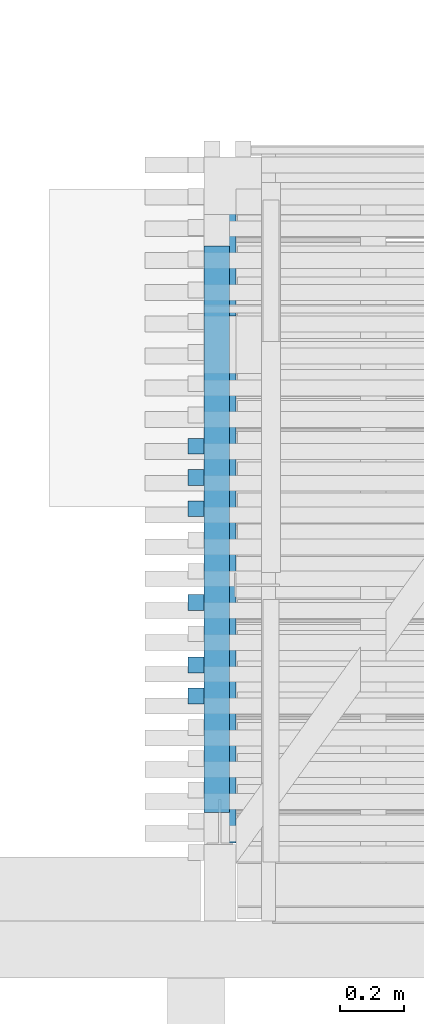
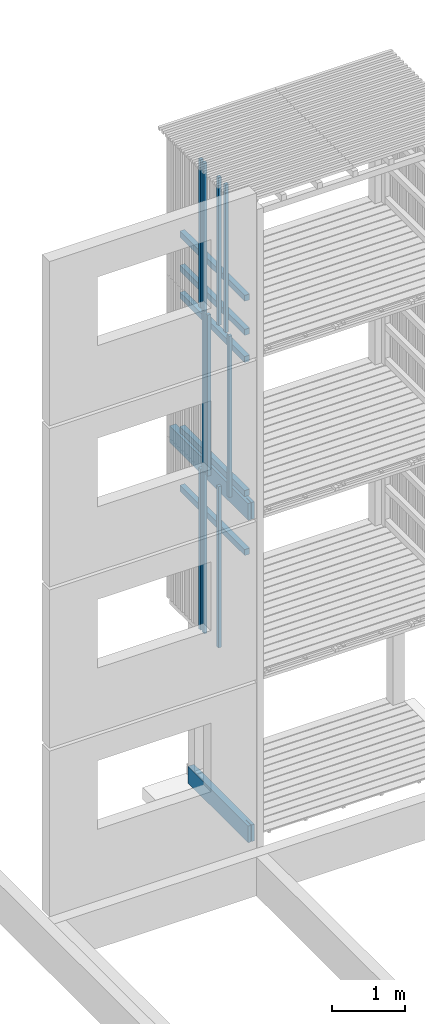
# One storey, part 89 of 182: 17 beams.
"""IFC2X3 building model written with IfcOpenShell, lengths in metres."""

from ifc_helpers import new_model, si_unit, frame, origin, place, context, project, spatial, faceted_brep, element, save


model = new_model("IFC2X3")

# Units and contexts
model_context = context("Model", 3, precision=1e-06, world=origin())
ifc_project = project(units=[si_unit("LENGTHUNIT", "METRE"), si_unit("PLANEANGLEUNIT", "RADIAN")], contexts=[model_context])

# Site, building, storey
site = spatial("IfcSite", under=ifc_project, CompositionType="ELEMENT")
building = spatial("IfcBuilding", under=site, CompositionType="ELEMENT")
storey = spatial("IfcBuildingStorey", under=building, Name="vs", CompositionType="ELEMENT", Elevation=-0.85)

# Beams
placement = place(None, origin())
beam_1_placement = place(placement, frame((42.99040135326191, 6.263259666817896, 5.274999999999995), z_axis=(1.0, 0.0, 0.0), x_axis=(0.0, 0.0, 1.0)))
element("IfcBeam", 1, at=beam_1_placement, inside=storey, Name="Bardage", context=model_context, shape_type="Brep", body=[
    faceted_brep([(2.699999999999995, 0.025000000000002, 0.025000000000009), (2.699999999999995, -0.024999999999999, 0.025000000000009), (2.699999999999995, -0.024999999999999, -0.025000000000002), (2.699999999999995, 0.025000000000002, -0.025000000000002), (1e-15, 0.025000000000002, 0.025000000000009), (2.699999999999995, 0.025000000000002, 0.025000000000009), (2.699999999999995, 0.025000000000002, -0.025000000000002), (1e-15, 0.025000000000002, -0.025000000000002), (1e-15, -0.024999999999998, 0.025000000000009), (1e-15, 0.025000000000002, 0.025000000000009), (1e-15, 0.025000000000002, -0.025000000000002), (1e-15, -0.024999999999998, -0.025000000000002), (1e-15, 0.025000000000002, 0.025000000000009), (1e-15, -0.024999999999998, 0.025000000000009), (2.699999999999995, -0.024999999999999, 0.025000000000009), (2.699999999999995, 0.025000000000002, 0.025000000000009), (1e-15, -0.024999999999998, 0.025000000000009), (1e-15, -0.024999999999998, -0.025000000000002), (2.699999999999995, -0.024999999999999, -0.025000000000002), (2.699999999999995, -0.024999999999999, 0.025000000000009), (1e-15, -0.024999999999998, -0.025000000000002), (1e-15, 0.025000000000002, -0.025000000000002), (2.699999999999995, 0.025000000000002, -0.025000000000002), (2.699999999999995, -0.024999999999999, -0.025000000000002)], [[[0, 1, 2, 3]], [[4, 5, 6, 7]], [[8, 9, 10, 11]], [[12, 13, 14, 15]], [[16, 17, 18, 19]], [[20, 21, 22, 23]]]),
])
beam_2_placement = place(placement, frame((43.055401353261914, 5.210077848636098, 8.229999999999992), z_axis=(0.0, 0.0, 1.0), x_axis=(0.0, 1.0, 0.0)))
element("IfcBeam", 2, at=beam_2_placement, inside=storey, Name="Support bardage", context=model_context, shape_type="Brep", body=[
    faceted_brep([(1.779999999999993, 0.039999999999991, -0.05), (1.779999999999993, 0.039999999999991, 0.050000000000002), (1.779999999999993, -0.040000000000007, 0.050000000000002), (1.779999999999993, -0.040000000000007, -0.05), (1.779999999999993, -0.040000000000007, 0.050000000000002), (1.779999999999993, 0.039999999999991, 0.050000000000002), (-4e-15, 0.039999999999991, 0.050000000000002), (-4e-15, -0.040000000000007, 0.050000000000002), (-4e-15, 0.039999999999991, 0.050000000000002), (1.779999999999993, 0.039999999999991, 0.050000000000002), (1.779999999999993, 0.039999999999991, -0.05), (-4e-15, 0.039999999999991, -0.05), (1.779999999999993, -0.040000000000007, -0.05), (1.779999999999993, -0.040000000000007, 0.050000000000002), (-4e-15, -0.040000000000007, 0.050000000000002), (-4e-15, -0.040000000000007, -0.05), (-4e-15, 0.039999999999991, -0.05), (1.779999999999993, 0.039999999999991, -0.05), (1.779999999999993, -0.040000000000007, -0.05), (-4e-15, -0.040000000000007, -0.05), (-4e-15, 0.039999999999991, 0.050000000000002), (-4e-15, 0.039999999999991, -0.05), (-4e-15, -0.040000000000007, -0.05), (-4e-15, -0.040000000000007, 0.050000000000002)], [[[0, 1, 2, 3]], [[4, 5, 6, 7]], [[8, 9, 10, 11]], [[12, 13, 14, 15]], [[16, 17, 18, 19]], [[20, 21, 22, 23]]]),
])
beam_3_placement = place(placement, frame((42.99040135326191, 6.263259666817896, 7.974999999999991), z_axis=(1.0, 0.0, 0.0), x_axis=(0.0, 0.0, 1.0)))
element("IfcBeam", 3, at=beam_3_placement, inside=storey, Name="Bardage", context=model_context, shape_type="Brep", body=[
    faceted_brep([(0.0, -0.024999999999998, 0.025000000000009), (0.0, 0.025000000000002, 0.025000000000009), (0.0, 0.025000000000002, -0.025000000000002), (0.0, -0.024999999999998, -0.025000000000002), (2.479999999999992, 0.025000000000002, -0.025000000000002), (2.479999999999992, 0.025000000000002, 0.025000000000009), (2.479999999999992, -0.024999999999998, 0.025000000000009), (2.479999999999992, -0.024999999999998, -0.025000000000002), (0.0, 0.025000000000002, 0.025000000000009), (0.0, -0.024999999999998, 0.025000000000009), (2.479999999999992, -0.024999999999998, 0.025000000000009), (2.479999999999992, 0.025000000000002, 0.025000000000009), (0.0, 0.025000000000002, -0.025000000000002), (0.0, 0.025000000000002, 0.025000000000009), (2.479999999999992, 0.025000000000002, 0.025000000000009), (2.479999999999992, 0.025000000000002, -0.025000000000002), (0.0, -0.024999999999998, -0.025000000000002), (0.0, 0.025000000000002, -0.025000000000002), (2.479999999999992, 0.025000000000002, -0.025000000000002), (2.479999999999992, -0.024999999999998, -0.025000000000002), (2.479999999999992, -0.024999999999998, 0.025000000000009), (0.0, -0.024999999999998, 0.025000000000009), (0.0, -0.024999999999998, -0.025000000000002), (2.479999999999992, -0.024999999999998, -0.025000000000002)], [[[0, 1, 2, 3]], [[4, 5, 6, 7]], [[8, 9, 10, 11]], [[12, 13, 14, 15]], [[16, 17, 18, 19]], [[20, 21, 22, 23]]]),
])
beam_4_placement = place(placement, frame((42.99040135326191, 6.361441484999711, 7.974999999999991), z_axis=(1.0, 0.0, 0.0), x_axis=(0.0, 0.0, 1.0)))
element("IfcBeam", 4, at=beam_4_placement, inside=storey, Name="Bardage", context=model_context, shape_type="Brep", body=[
    faceted_brep([(0.0, -0.024999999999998, 0.025000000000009), (0.0, 0.024999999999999, 0.025000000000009), (0.0, 0.024999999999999, -0.025000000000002), (0.0, -0.024999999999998, -0.025000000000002), (2.479999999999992, 0.024999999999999, -0.025000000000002), (2.479999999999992, 0.024999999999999, 0.025000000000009), (2.479999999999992, -0.024999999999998, 0.025000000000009), (2.479999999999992, -0.024999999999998, -0.025000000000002), (0.0, 0.024999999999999, 0.025000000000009), (0.0, -0.024999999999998, 0.025000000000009), (2.479999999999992, -0.024999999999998, 0.025000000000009), (2.479999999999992, 0.024999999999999, 0.025000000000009), (0.0, 0.024999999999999, -0.025000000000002), (0.0, 0.024999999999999, 0.025000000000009), (2.479999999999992, 0.024999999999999, 0.025000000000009), (2.479999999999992, 0.024999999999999, -0.025000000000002), (0.0, -0.024999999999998, -0.025000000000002), (0.0, 0.024999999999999, -0.025000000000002), (2.479999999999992, 0.024999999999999, -0.025000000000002), (2.479999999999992, -0.024999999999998, -0.025000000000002), (2.479999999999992, -0.024999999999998, 0.025000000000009), (0.0, -0.024999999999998, 0.025000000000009), (0.0, -0.024999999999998, -0.025000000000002), (2.479999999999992, -0.024999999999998, -0.025000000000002)], [[[0, 1, 2, 3]], [[4, 5, 6, 7]], [[8, 9, 10, 11]], [[12, 13, 14, 15]], [[16, 17, 18, 19]], [[20, 21, 22, 23]]]),
])
beam_5_placement = place(placement, frame((42.99040135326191, 6.263259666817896, 2.575000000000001), z_axis=(1.0, 0.0, 0.0), x_axis=(0.0, 0.0, 1.0)))
element("IfcBeam", 5, at=beam_5_placement, inside=storey, Name="Bardage", context=model_context, shape_type="Brep", body=[
    faceted_brep([(2.699961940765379, -0.024999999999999, 0.025000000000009), (2.699961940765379, -0.024999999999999, -0.025000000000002), (2.699961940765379, 0.024999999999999, -0.025000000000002), (2.699961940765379, 0.024999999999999, 0.025000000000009), (0.0, -0.024999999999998, 0.025000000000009), (2.699961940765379, -0.024999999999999, 0.025000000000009), (2.699961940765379, 0.024999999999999, 0.025000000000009), (0.0, 0.025000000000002, 0.025000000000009), (0.0, -0.024999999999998, 0.025000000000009), (0.0, 0.025000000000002, 0.025000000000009), (0.0, 0.025000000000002, -0.025000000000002), (0.0, -0.024999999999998, -0.025000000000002), (0.0, -0.024999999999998, 0.025000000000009), (0.0, -0.024999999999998, -0.025000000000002), (2.699961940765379, -0.024999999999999, -0.025000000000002), (2.699961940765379, -0.024999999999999, 0.025000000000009), (0.0, -0.024999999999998, -0.025000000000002), (0.0, 0.025000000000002, -0.025000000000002), (2.699961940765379, 0.024999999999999, -0.025000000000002), (2.699961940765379, -0.024999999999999, -0.025000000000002), (0.0, 0.025000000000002, -0.025000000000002), (0.0, 0.025000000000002, 0.025000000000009), (2.699961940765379, 0.024999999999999, 0.025000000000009), (2.699961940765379, 0.024999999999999, -0.025000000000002)], [[[0, 1, 2, 3]], [[4, 5, 6, 7]], [[8, 9, 10, 11]], [[12, 13, 14, 15]], [[16, 17, 18, 19]], [[20, 21, 22, 23]]]),
])
beam_6_placement = place(placement, frame((43.06540135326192, 5.115077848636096, 5.279999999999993), z_axis=(0.0, 0.0, 1.0), x_axis=(0.0, 1.0, 0.0)))
element("IfcBeam", 6, at=beam_6_placement, inside=storey, Name="Sommier", context=model_context, shape_type="Brep", body=[
    faceted_brep([(2.154999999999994, 0.049999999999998, 0.140000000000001), (2.154999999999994, -0.049999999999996, 0.140000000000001), (2.154999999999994, -0.049999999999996, -0.140000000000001), (2.154999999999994, 0.049999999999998, -0.140000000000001), (0.771999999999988, -0.049999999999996, -0.140000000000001), (0.771999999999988, -0.049999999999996, 0.034999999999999), (0.847999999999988, -0.049999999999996, 0.034999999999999), (0.847999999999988, -0.049999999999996, -0.140000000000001), (2.154999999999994, -0.049999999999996, -0.140000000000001), (2.154999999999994, -0.049999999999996, 0.140000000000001), (0.0, -0.049999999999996, 0.140000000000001), (0.0, -0.049999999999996, -0.140000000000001), (0.771999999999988, -0.045000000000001, -0.140000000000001), (0.847999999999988, -0.045000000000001, -0.140000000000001), (0.847999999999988, -0.045000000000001, 0.034999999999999), (0.771999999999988, -0.045000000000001, 0.034999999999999), (0.771999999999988, -0.045000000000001, 0.034999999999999), (0.847999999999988, -0.045000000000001, 0.034999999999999), (0.847999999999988, -0.049999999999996, 0.034999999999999), (0.771999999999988, -0.049999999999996, 0.034999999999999), (0.847999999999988, -0.045000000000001, 0.034999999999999), (0.847999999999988, -0.045000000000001, -0.140000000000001), (0.847999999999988, -0.049999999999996, -0.140000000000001), (0.847999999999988, -0.049999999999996, 0.034999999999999), (0.771999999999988, -0.049999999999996, 0.034999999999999), (0.771999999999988, -0.049999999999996, -0.140000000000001), (0.771999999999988, -0.045000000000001, -0.140000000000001), (0.771999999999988, -0.045000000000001, 0.034999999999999), (2.154999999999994, 0.049999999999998, 0.140000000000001), (2.154999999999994, 0.049999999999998, -0.140000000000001), (0.0, 0.049999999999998, -0.140000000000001), (0.0, 0.049999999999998, 0.140000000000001), (0.0, -0.00399999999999, 0.140000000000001), (0.0, -0.049999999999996, 0.140000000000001), (2.154999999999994, -0.049999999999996, 0.140000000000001), (2.154999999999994, 0.049999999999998, 0.140000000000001), (0.0, 0.049999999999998, 0.140000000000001), (0.0, 0.004000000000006, 0.140000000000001), (0.137, 0.004000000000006, 0.140000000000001), (0.137, -0.00399999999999, 0.140000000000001), (0.0, 0.004000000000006, -0.140000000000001), (0.0, 0.004000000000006, 0.140000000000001), (0.0, 0.049999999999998, 0.140000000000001), (0.0, 0.049999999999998, -0.140000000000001), (0.0, -0.049999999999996, 0.140000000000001), (0.0, -0.00399999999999, 0.140000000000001), (0.0, -0.00399999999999, -0.140000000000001), (0.0, -0.049999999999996, -0.140000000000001), (0.0, 0.049999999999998, -0.140000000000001), (2.154999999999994, 0.049999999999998, -0.140000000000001), (2.154999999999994, -0.049999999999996, -0.140000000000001), (0.847999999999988, -0.049999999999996, -0.140000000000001), (0.847999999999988, -0.045000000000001, -0.140000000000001), (0.771999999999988, -0.045000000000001, -0.140000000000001), (0.771999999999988, -0.049999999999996, -0.140000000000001), (0.0, -0.049999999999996, -0.140000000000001), (0.0, -0.00399999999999, -0.140000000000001), (0.137, -0.00399999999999, -0.140000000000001), (0.137, 0.004000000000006, -0.140000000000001), (0.0, 0.004000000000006, -0.140000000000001), (0.137, 0.004000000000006, -0.140000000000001), (0.137, -0.00399999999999, -0.140000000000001), (0.137, -0.00399999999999, 0.140000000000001), (0.137, 0.004000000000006, 0.140000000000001), (0.0, -0.00399999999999, 0.140000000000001), (0.137, -0.00399999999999, 0.140000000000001), (0.137, -0.00399999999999, -0.140000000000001), (0.0, -0.00399999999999, -0.140000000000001), (0.137, 0.004000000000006, 0.140000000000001), (0.0, 0.004000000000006, 0.140000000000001), (0.0, 0.004000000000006, -0.140000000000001), (0.137, 0.004000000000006, -0.140000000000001)], [[[0, 1, 2, 3]], [[4, 5, 6, 7, 8, 9, 10, 11]], [[12, 13, 14, 15]], [[16, 17, 18, 19]], [[20, 21, 22, 23]], [[24, 25, 26, 27]], [[28, 29, 30, 31]], [[32, 33, 34, 35, 36, 37, 38, 39]], [[40, 41, 42, 43]], [[44, 45, 46, 47]], [[48, 49, 50, 51, 52, 53, 54, 55, 56, 57, 58, 59]], [[60, 61, 62, 63]], [[64, 65, 66, 67]], [[68, 69, 70, 71]]]),
])
beam_7_placement = place(placement, frame((42.99040135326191, 6.165077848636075, 5.274999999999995), z_axis=(1.0, 0.0, 0.0), x_axis=(0.0, 1e-15, 1.0)))
element("IfcBeam", 7, at=beam_7_placement, inside=storey, Name="Bardage", context=model_context, shape_type="Brep", body=[
    faceted_brep([(2.699999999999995, 0.025000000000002, 0.025000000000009), (2.699999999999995, -0.025000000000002, 0.025000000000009), (2.699999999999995, -0.025000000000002, -0.025000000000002), (2.699999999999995, 0.025000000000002, -0.025000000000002), (1e-15, 0.024999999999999, 0.025000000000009), (2.699999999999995, 0.025000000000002, 0.025000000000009), (2.699999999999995, 0.025000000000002, -0.025000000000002), (1e-15, 0.024999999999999, -0.025000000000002), (1e-15, -0.025000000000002, 0.025000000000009), (1e-15, 0.024999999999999, 0.025000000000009), (1e-15, 0.024999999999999, -0.025000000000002), (1e-15, -0.025000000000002, -0.025000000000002), (1e-15, 0.024999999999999, 0.025000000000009), (1e-15, -0.025000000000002, 0.025000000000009), (2.699999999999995, -0.025000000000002, 0.025000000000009), (2.699999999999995, 0.025000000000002, 0.025000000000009), (1e-15, -0.025000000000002, 0.025000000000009), (1e-15, -0.025000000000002, -0.025000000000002), (2.699999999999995, -0.025000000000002, -0.025000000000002), (2.699999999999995, -0.025000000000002, 0.025000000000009), (1e-15, -0.025000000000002, -0.025000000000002), (1e-15, 0.024999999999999, -0.025000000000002), (2.699999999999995, 0.025000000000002, -0.025000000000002), (2.699999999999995, -0.025000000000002, -0.025000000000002)], [[[0, 1, 2, 3]], [[4, 5, 6, 7]], [[8, 9, 10, 11]], [[12, 13, 14, 15]], [[16, 17, 18, 19]], [[20, 21, 22, 23]]]),
])
beam_8_placement = place(placement, frame((43.06540135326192, 5.115077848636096, -0.119999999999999), z_axis=(0.0, 0.0, 1.0), x_axis=(0.0, 1.0, 0.0)))
element("IfcBeam", 8, at=beam_8_placement, inside=storey, Name="Sommier", context=model_context, shape_type="Brep", body=[
    faceted_brep([(0.771999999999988, -0.045000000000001, 0.051399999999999), (0.847999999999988, -0.045000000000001, 0.051399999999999), (0.847999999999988, -0.049999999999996, 0.051399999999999), (0.771999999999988, -0.049999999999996, 0.051399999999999), (0.847999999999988, -0.045000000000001, -0.123600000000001), (0.847999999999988, -0.049999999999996, -0.123600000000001), (0.847999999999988, -0.049999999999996, 0.051399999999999), (0.847999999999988, -0.045000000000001, 0.051399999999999), (0.771999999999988, -0.049999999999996, -0.123600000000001), (0.771999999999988, -0.045000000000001, -0.123600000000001), (0.771999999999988, -0.045000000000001, 0.051399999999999), (0.771999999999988, -0.049999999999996, 0.051399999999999), (0.847999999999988, -0.049999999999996, -0.123600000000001), (0.847999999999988, -0.045000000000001, -0.123600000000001), (0.771999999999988, -0.045000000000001, -0.123600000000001), (0.771999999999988, -0.049999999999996, -0.123600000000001), (1.654999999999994, 0.049999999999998, 0.14), (1.654999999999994, -0.049999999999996, 0.14), (1.654999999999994, -0.049999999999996, -0.14), (1.654999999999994, 0.049999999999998, -0.14), (0.137, -0.00399999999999, 0.14), (0.0, -0.00399999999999, 0.14), (0.0, -0.049999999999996, 0.14), (1.654999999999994, -0.049999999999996, 0.14), (1.654999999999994, 0.049999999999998, 0.14), (0.0, 0.049999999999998, 0.14), (0.0, 0.004000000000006, 0.14), (0.137, 0.004000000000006, 0.14), (0.0, -0.049999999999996, -0.14), (1.654999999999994, -0.049999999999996, -0.14), (1.654999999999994, -0.049999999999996, 0.14), (0.0, -0.049999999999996, 0.14), (0.771999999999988, -0.049999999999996, 0.051399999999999), (0.847999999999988, -0.049999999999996, 0.051399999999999), (0.847999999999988, -0.049999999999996, -0.123600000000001), (0.771999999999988, -0.049999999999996, -0.123600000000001), (0.771999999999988, -0.045000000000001, 0.051399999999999), (0.771999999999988, -0.045000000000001, -0.123600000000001), (0.847999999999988, -0.045000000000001, -0.123600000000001), (0.847999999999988, -0.045000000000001, 0.051399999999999), (0.0, 0.049999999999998, 0.14), (1.654999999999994, 0.049999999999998, 0.14), (1.654999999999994, 0.049999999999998, -0.14), (0.0, 0.049999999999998, -0.14), (0.0, 0.004000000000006, -0.14), (0.0, 0.004000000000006, 0.14), (0.0, 0.049999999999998, 0.14), (0.0, 0.049999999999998, -0.14), (0.0, -0.049999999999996, 0.14), (0.0, -0.00399999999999, 0.14), (0.0, -0.00399999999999, -0.14), (0.0, -0.049999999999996, -0.14), (0.0, 0.004000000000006, -0.14), (0.0, 0.049999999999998, -0.14), (1.654999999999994, 0.049999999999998, -0.14), (1.654999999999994, -0.049999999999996, -0.14), (0.0, -0.049999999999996, -0.14), (0.0, -0.00399999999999, -0.14), (0.137, -0.00399999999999, -0.14), (0.137, 0.004000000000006, -0.14), (0.137, 0.004000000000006, -0.14), (0.137, -0.00399999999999, -0.14), (0.137, -0.00399999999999, 0.14), (0.137, 0.004000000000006, 0.14), (0.0, -0.00399999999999, 0.14), (0.137, -0.00399999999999, 0.14), (0.137, -0.00399999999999, -0.14), (0.0, -0.00399999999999, -0.14), (0.137, 0.004000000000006, 0.14), (0.0, 0.004000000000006, 0.14), (0.0, 0.004000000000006, -0.14), (0.137, 0.004000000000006, -0.14)], [[[0, 1, 2, 3]], [[4, 5, 6, 7]], [[8, 9, 10, 11]], [[12, 13, 14, 15]], [[16, 17, 18, 19]], [[20, 21, 22, 23, 24, 25, 26, 27]], [[28, 29, 30, 31], [32, 33, 34, 35]], [[36, 37, 38, 39]], [[40, 41, 42, 43]], [[44, 45, 46, 47]], [[48, 49, 50, 51]], [[52, 53, 54, 55, 56, 57, 58, 59]], [[60, 61, 62, 63]], [[64, 65, 66, 67]], [[68, 69, 70, 71]]]),
])
beam_9_placement = place(placement, frame((42.99040135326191, 5.575986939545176, 5.274999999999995), z_axis=(1.0, 0.0, 0.0), x_axis=(0.0, 0.0, 1.0)))
element("IfcBeam", 9, at=beam_9_placement, inside=storey, Name="Bardage", context=model_context, shape_type="Brep", body=[
    faceted_brep([(2.699999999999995, 0.024999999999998, 0.025000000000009), (2.699999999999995, -0.024999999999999, 0.025000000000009), (2.699999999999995, -0.024999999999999, -0.025000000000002), (2.699999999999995, 0.024999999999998, -0.025000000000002), (1e-15, 0.024999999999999, 0.025000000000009), (2.699999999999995, 0.024999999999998, 0.025000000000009), (2.699999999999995, 0.024999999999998, -0.025000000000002), (1e-15, 0.024999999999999, -0.025000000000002), (1e-15, -0.024999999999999, 0.025000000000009), (1e-15, 0.024999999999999, 0.025000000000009), (1e-15, 0.024999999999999, -0.025000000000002), (1e-15, -0.024999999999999, -0.025000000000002), (1e-15, 0.024999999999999, 0.025000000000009), (1e-15, -0.024999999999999, 0.025000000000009), (2.699999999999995, -0.024999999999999, 0.025000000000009), (2.699999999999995, 0.024999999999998, 0.025000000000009), (1e-15, -0.024999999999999, 0.025000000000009), (1e-15, -0.024999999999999, -0.025000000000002), (2.699999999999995, -0.024999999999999, -0.025000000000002), (2.699999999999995, -0.024999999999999, 0.025000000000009), (1e-15, -0.024999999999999, -0.025000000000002), (1e-15, 0.024999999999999, -0.025000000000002), (2.699999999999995, 0.024999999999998, -0.025000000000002), (2.699999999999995, -0.024999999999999, -0.025000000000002)], [[[0, 1, 2, 3]], [[4, 5, 6, 7]], [[8, 9, 10, 11]], [[12, 13, 14, 15]], [[16, 17, 18, 19]], [[20, 21, 22, 23]]]),
])
beam_10_placement = place(placement, frame((43.055401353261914, 5.210077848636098, 7.774999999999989), z_axis=(0.0, 0.0, 1.0), x_axis=(0.0, 1.0, 0.0)))
element("IfcBeam", 10, at=beam_10_placement, inside=storey, Name="Support bardage", context=model_context, shape_type="Brep", body=[
    faceted_brep([(1.779999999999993, 0.039999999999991, -0.050000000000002), (1.779999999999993, 0.039999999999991, 0.050000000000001), (1.779999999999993, -0.040000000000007, 0.050000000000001), (1.779999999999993, -0.040000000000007, -0.050000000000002), (1.779999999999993, -0.040000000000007, 0.050000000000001), (1.779999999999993, 0.039999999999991, 0.050000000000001), (-4e-15, 0.039999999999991, 0.050000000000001), (-4e-15, -0.040000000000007, 0.050000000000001), (-4e-15, 0.039999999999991, 0.050000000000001), (1.779999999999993, 0.039999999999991, 0.050000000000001), (1.779999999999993, 0.039999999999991, -0.050000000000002), (-4e-15, 0.039999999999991, -0.050000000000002), (1.779999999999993, -0.040000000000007, -0.050000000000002), (1.779999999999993, -0.040000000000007, 0.050000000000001), (-4e-15, -0.040000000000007, 0.050000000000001), (-4e-15, -0.040000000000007, -0.050000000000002), (-4e-15, 0.039999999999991, -0.050000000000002), (1.779999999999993, 0.039999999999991, -0.050000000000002), (1.779999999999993, -0.040000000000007, -0.050000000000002), (-4e-15, -0.040000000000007, -0.050000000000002), (-4e-15, 0.039999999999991, 0.050000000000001), (-4e-15, 0.039999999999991, -0.050000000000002), (-4e-15, -0.040000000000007, -0.050000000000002), (-4e-15, -0.040000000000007, 0.050000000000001)], [[[0, 1, 2, 3]], [[4, 5, 6, 7]], [[8, 9, 10, 11]], [[12, 13, 14, 15]], [[16, 17, 18, 19]], [[20, 21, 22, 23]]]),
])
beam_11_placement = place(placement, frame((43.055401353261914, 5.210077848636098, 4.543749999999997), z_axis=(0.0, 0.0, 1.0), x_axis=(0.0, 1.0, 0.0)))
element("IfcBeam", 11, at=beam_11_placement, inside=storey, Name="Support bardage", context=model_context, shape_type="Brep", body=[
    faceted_brep([(1.779999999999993, 0.039999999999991, -0.050000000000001), (1.779999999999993, 0.039999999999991, 0.050000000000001), (1.779999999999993, -0.040000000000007, 0.050000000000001), (1.779999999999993, -0.040000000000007, -0.050000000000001), (1.779999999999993, -0.040000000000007, 0.050000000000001), (1.779999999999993, 0.039999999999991, 0.050000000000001), (-4e-15, 0.039999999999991, 0.050000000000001), (-4e-15, -0.040000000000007, 0.050000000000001), (-4e-15, 0.039999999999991, 0.050000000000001), (1.779999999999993, 0.039999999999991, 0.050000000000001), (1.779999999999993, 0.039999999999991, -0.050000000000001), (-4e-15, 0.039999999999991, -0.050000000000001), (1.779999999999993, -0.040000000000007, -0.050000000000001), (1.779999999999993, -0.040000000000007, 0.050000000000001), (-4e-15, -0.040000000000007, 0.050000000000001), (-4e-15, -0.040000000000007, -0.050000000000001), (-4e-15, 0.039999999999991, -0.050000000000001), (1.779999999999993, 0.039999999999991, -0.050000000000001), (1.779999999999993, -0.040000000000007, -0.050000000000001), (-4e-15, -0.040000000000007, -0.050000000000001), (-4e-15, 0.039999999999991, 0.050000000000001), (-4e-15, 0.039999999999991, -0.050000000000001), (-4e-15, -0.040000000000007, -0.050000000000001), (-4e-15, -0.040000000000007, 0.050000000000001)], [[[0, 1, 2, 3]], [[4, 5, 6, 7]], [[8, 9, 10, 11]], [[12, 13, 14, 15]], [[16, 17, 18, 19]], [[20, 21, 22, 23]]]),
])
beam_12_placement = place(placement, frame((42.99040135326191, 5.674168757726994, 7.974999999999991), z_axis=(1.0, 0.0, 0.0), x_axis=(0.0, 0.0, 1.0)))
element("IfcBeam", 12, at=beam_12_placement, inside=storey, Name="Bardage", context=model_context, shape_type="Brep", body=[
    faceted_brep([(0.0, -0.025000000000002, 0.025000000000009), (0.0, 0.025000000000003, 0.025000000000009), (0.0, 0.025000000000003, -0.025000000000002), (0.0, -0.025000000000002, -0.025000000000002), (2.479999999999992, 0.025000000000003, -0.025000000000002), (2.479999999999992, 0.025000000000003, 0.025000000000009), (2.479999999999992, -0.025000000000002, 0.025000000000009), (2.479999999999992, -0.025000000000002, -0.025000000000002), (0.0, 0.025000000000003, 0.025000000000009), (0.0, -0.025000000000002, 0.025000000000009), (2.479999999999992, -0.025000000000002, 0.025000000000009), (2.479999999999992, 0.025000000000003, 0.025000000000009), (0.0, 0.025000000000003, -0.025000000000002), (0.0, 0.025000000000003, 0.025000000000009), (2.479999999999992, 0.025000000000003, 0.025000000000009), (2.479999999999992, 0.025000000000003, -0.025000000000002), (0.0, -0.025000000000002, -0.025000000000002), (0.0, 0.025000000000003, -0.025000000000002), (2.479999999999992, 0.025000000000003, -0.025000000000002), (2.479999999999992, -0.025000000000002, -0.025000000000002), (2.479999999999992, -0.025000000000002, 0.025000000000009), (0.0, -0.025000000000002, 0.025000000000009), (0.0, -0.025000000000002, -0.025000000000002), (2.479999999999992, -0.025000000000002, -0.025000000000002)], [[[0, 1, 2, 3]], [[4, 5, 6, 7]], [[8, 9, 10, 11]], [[12, 13, 14, 15]], [[16, 17, 18, 19]], [[20, 21, 22, 23]]]),
])
beam_13_placement = place(placement, frame((43.055401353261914, 5.210077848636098, 8.80124999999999), z_axis=(0.0, 0.0, 1.0), x_axis=(0.0, 1.0, 0.0)))
element("IfcBeam", 13, at=beam_13_placement, inside=storey, Name="Support bardage", context=model_context, shape_type="Brep", body=[
    faceted_brep([(1.779999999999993, 0.039999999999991, -0.050000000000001), (1.779999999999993, 0.039999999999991, 0.050000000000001), (1.779999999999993, -0.040000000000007, 0.050000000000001), (1.779999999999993, -0.040000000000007, -0.050000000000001), (1.779999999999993, -0.040000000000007, 0.050000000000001), (1.779999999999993, 0.039999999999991, 0.050000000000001), (-4e-15, 0.039999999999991, 0.050000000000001), (-4e-15, -0.040000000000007, 0.050000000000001), (-4e-15, 0.039999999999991, 0.050000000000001), (1.779999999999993, 0.039999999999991, 0.050000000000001), (1.779999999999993, 0.039999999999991, -0.050000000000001), (-4e-15, 0.039999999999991, -0.050000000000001), (1.779999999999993, -0.040000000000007, -0.050000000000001), (1.779999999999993, -0.040000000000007, 0.050000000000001), (-4e-15, -0.040000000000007, 0.050000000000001), (-4e-15, -0.040000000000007, -0.050000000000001), (-4e-15, 0.039999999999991, -0.050000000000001), (1.779999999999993, 0.039999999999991, -0.050000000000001), (1.779999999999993, -0.040000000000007, -0.050000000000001), (-4e-15, -0.040000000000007, -0.050000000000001), (-4e-15, 0.039999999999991, 0.050000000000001), (-4e-15, 0.039999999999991, -0.050000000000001), (-4e-15, -0.040000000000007, -0.050000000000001), (-4e-15, -0.040000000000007, 0.050000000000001)], [[[0, 1, 2, 3]], [[4, 5, 6, 7]], [[8, 9, 10, 11]], [[12, 13, 14, 15]], [[16, 17, 18, 19]], [[20, 21, 22, 23]]]),
])
beam_14_placement = place(placement, frame((43.055401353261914, 5.210077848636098, 5.529999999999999), z_axis=(0.0, 0.0, 1.0), x_axis=(0.0, 1.0, 0.0)))
element("IfcBeam", 14, at=beam_14_placement, inside=storey, Name="Support bardage", context=model_context, shape_type="Brep", body=[
    faceted_brep([(1.779999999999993, 0.039999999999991, -0.050000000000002), (1.779999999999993, 0.039999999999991, 0.05), (1.779999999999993, -0.040000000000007, 0.05), (1.779999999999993, -0.040000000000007, -0.050000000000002), (1.779999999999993, -0.040000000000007, 0.05), (1.779999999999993, 0.039999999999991, 0.05), (-4e-15, 0.039999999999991, 0.05), (-4e-15, -0.040000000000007, 0.05), (-4e-15, 0.039999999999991, 0.05), (1.779999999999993, 0.039999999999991, 0.05), (1.779999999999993, 0.039999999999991, -0.050000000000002), (-4e-15, 0.039999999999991, -0.050000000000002), (1.779999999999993, -0.040000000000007, -0.050000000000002), (1.779999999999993, -0.040000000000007, 0.05), (-4e-15, -0.040000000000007, 0.05), (-4e-15, -0.040000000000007, -0.050000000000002), (-4e-15, 0.039999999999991, -0.050000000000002), (1.779999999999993, 0.039999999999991, -0.050000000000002), (1.779999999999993, -0.040000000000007, -0.050000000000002), (-4e-15, -0.040000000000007, -0.050000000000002), (-4e-15, 0.039999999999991, 0.05), (-4e-15, 0.039999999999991, -0.050000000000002), (-4e-15, -0.040000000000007, -0.050000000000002), (-4e-15, -0.040000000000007, 0.05)], [[[0, 1, 2, 3]], [[4, 5, 6, 7]], [[8, 9, 10, 11]], [[12, 13, 14, 15]], [[16, 17, 18, 19]], [[20, 21, 22, 23]]]),
])
beam_15_placement = place(placement, frame((42.99040135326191, 5.870532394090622, 2.575000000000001), z_axis=(1.0, 0.0, 0.0), x_axis=(0.0, 0.0, 1.0)))
element("IfcBeam", 15, at=beam_15_placement, inside=storey, Name="Bardage", context=model_context, shape_type="Brep", body=[
    faceted_brep([(2.699961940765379, -0.025000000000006, 0.025000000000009), (2.699961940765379, -0.025000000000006, -0.025000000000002), (2.699961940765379, 0.024999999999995, -0.025000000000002), (2.699961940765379, 0.024999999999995, 0.025000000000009), (0.0, -0.025000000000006, 0.025000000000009), (2.699961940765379, -0.025000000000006, 0.025000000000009), (2.699961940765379, 0.024999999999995, 0.025000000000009), (0.0, 0.024999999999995, 0.025000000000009), (0.0, -0.025000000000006, 0.025000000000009), (0.0, 0.024999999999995, 0.025000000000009), (0.0, 0.024999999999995, -0.025000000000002), (0.0, -0.025000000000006, -0.025000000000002), (0.0, -0.025000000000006, 0.025000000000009), (0.0, -0.025000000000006, -0.025000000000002), (2.699961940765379, -0.025000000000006, -0.025000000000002), (2.699961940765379, -0.025000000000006, 0.025000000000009), (0.0, -0.025000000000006, -0.025000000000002), (0.0, 0.024999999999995, -0.025000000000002), (2.699961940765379, 0.024999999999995, -0.025000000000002), (2.699961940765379, -0.025000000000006, -0.025000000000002), (0.0, 0.024999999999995, -0.025000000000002), (0.0, 0.024999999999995, 0.025000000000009), (2.699961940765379, 0.024999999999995, 0.025000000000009), (2.699961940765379, 0.024999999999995, -0.025000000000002)], [[[0, 1, 2, 3]], [[4, 5, 6, 7]], [[8, 9, 10, 11]], [[12, 13, 14, 15]], [[16, 17, 18, 19]], [[20, 21, 22, 23]]]),
])
beam_16_placement = place(placement, frame((42.99040135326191, 6.361441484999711, 2.575000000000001), z_axis=(1.0, 0.0, 0.0), x_axis=(0.0, 0.0, 1.0)))
element("IfcBeam", 16, at=beam_16_placement, inside=storey, Name="Bardage", context=model_context, shape_type="Brep", body=[
    faceted_brep([(2.699961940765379, -0.024999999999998, 0.025000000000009), (2.699961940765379, -0.024999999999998, -0.025000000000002), (2.699961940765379, 0.024999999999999, -0.025000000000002), (2.699961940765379, 0.024999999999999, 0.025000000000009), (0.0, -0.024999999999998, 0.025000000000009), (2.699961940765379, -0.024999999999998, 0.025000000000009), (2.699961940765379, 0.024999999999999, 0.025000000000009), (0.0, 0.024999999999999, 0.025000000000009), (0.0, -0.024999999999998, 0.025000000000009), (0.0, 0.024999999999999, 0.025000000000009), (0.0, 0.024999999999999, -0.025000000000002), (0.0, -0.024999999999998, -0.025000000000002), (0.0, -0.024999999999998, 0.025000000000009), (0.0, -0.024999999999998, -0.025000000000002), (2.699961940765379, -0.024999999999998, -0.025000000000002), (2.699961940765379, -0.024999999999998, 0.025000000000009), (0.0, -0.024999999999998, -0.025000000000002), (0.0, 0.024999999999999, -0.025000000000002), (2.699961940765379, 0.024999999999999, -0.025000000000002), (2.699961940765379, -0.024999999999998, -0.025000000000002), (0.0, 0.024999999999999, -0.025000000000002), (0.0, 0.024999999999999, 0.025000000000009), (2.699961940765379, 0.024999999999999, 0.025000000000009), (2.699961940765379, 0.024999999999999, -0.025000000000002)], [[[0, 1, 2, 3]], [[4, 5, 6, 7]], [[8, 9, 10, 11]], [[12, 13, 14, 15]], [[16, 17, 18, 19]], [[20, 21, 22, 23]]]),
])
beam_17_placement = place(placement, frame((42.99040135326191, 5.870532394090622, 7.974999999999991), z_axis=(1.0, 0.0, 0.0), x_axis=(0.0, 0.0, 1.0)))
element("IfcBeam", 17, at=beam_17_placement, inside=storey, Name="Bardage", context=model_context, shape_type="Brep", body=[
    faceted_brep([(0.0, -0.025000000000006, 0.025000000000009), (0.0, 0.024999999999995, 0.025000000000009), (0.0, 0.024999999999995, -0.025000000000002), (0.0, -0.025000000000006, -0.025000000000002), (2.479999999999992, 0.024999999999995, -0.025000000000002), (2.479999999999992, 0.024999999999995, 0.025000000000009), (2.479999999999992, -0.025000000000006, 0.025000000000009), (2.479999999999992, -0.025000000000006, -0.025000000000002), (0.0, 0.024999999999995, 0.025000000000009), (0.0, -0.025000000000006, 0.025000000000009), (2.479999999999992, -0.025000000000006, 0.025000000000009), (2.479999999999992, 0.024999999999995, 0.025000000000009), (0.0, 0.024999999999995, -0.025000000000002), (0.0, 0.024999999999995, 0.025000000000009), (2.479999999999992, 0.024999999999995, 0.025000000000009), (2.479999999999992, 0.024999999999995, -0.025000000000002), (0.0, -0.025000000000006, -0.025000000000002), (0.0, 0.024999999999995, -0.025000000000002), (2.479999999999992, 0.024999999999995, -0.025000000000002), (2.479999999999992, -0.025000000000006, -0.025000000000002), (2.479999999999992, -0.025000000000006, 0.025000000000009), (0.0, -0.025000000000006, 0.025000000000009), (0.0, -0.025000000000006, -0.025000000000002), (2.479999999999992, -0.025000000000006, -0.025000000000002)], [[[0, 1, 2, 3]], [[4, 5, 6, 7]], [[8, 9, 10, 11]], [[12, 13, 14, 15]], [[16, 17, 18, 19]], [[20, 21, 22, 23]]]),
])

save(model, "model.ifc")
